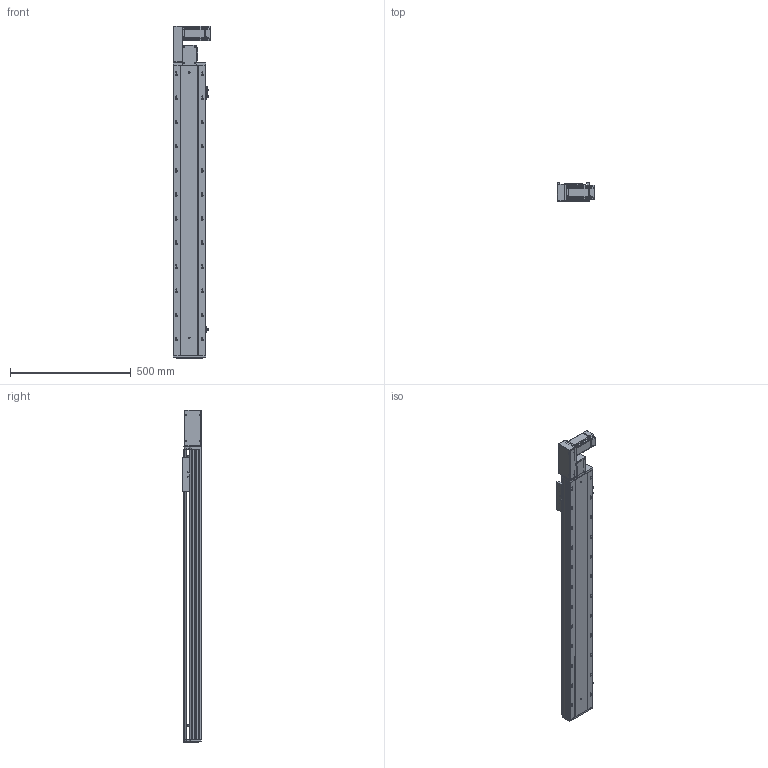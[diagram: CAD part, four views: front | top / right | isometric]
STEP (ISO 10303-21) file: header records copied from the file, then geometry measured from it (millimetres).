
FILE_DESCRIPTION (( 'STEP AP203' ), '1' );
FILE_NAME ('RY140-T-300-LK.SLDASM_950.step', '2021-03-01T06:35:30', ( '盈信电脑' ), ( '东莞市道滘镇水果街19号' ), 'SwSTEP 2.0', 'SolidWorks 2012', '' );
FILE_SCHEMA (( 'CONFIG_CONTROL_DESIGN' ));
Length unit declared in the file: millimetre
Products named in the file (18): RY140-T-300-LK.SLDASM_950; RY140-T翋肮謫裔啣; 滅袉蝶18-10; RY140-T萇儂欶; RY120-T主同步轮轴承压盖; RY120-T蹟翐M4; RY140-T萇儂假蚾啣; 侂狟400W侜督萇儂; 15; RY120-T肮祭湍揤踡輸1; RY120-T肮祭湍揤踡輸2; RY120外置感应片(140共用）; RY140-T翋肮祭謫盓傅釱; 覜茼ん672; RY140-T-300-DL倰第奻裔啣_950; RY140肮祭謫臏賑輸; RY140綴裔啣; RY140-T-300-DL倰第菁釱_950
Assembly tree (23 placements, depth 3):
  RY140-T-300-LK.SLDASM_950
    RY140-T-300-DL倰第菁釱_950
    RY140肮祭謫臏賑輸
    RY140-T-300-DL倰第奻裔啣_950
    RY140綴裔啣
    覜茼ん672  x3
    RY120外置感应片(140共用）
    RY120-T肮祭湍揤踡輸2
    RY120-T肮祭湍揤踡輸1
    RY140-T翋肮祭謫盓傅釱
    RY140-T萇儂假蚾啣
    侂狟400W侜督萇儂
      15
    RY120-T主同步轮轴承压盖
    RY120-T蹟翐M4  x4
    RY140-T萇儂欶
    滅袉蝶18-10  x2
    RY140-T翋肮謫裔啣
Bounding box: 157 x 78 x 1376.5 mm (x, y, z)
Volume: 3869593.1 mm3; surface area: 1476772 mm2
Topology: 22 solids, 22 shells, 2743 faces, 7577 edges, 4868 vertices
Faces by surface type: plane 1381, cylinder 1044, cone 218, bspline 100
Entity records: 87649 total; most frequent: CARTESIAN_POINT 21583, ORIENTED_EDGE 13642, DIRECTION 12877, EDGE_CURVE 6821, VERTEX_POINT 4467, LINE 4293, VECTOR 4293, AXIS2_PLACEMENT_3D 4292
